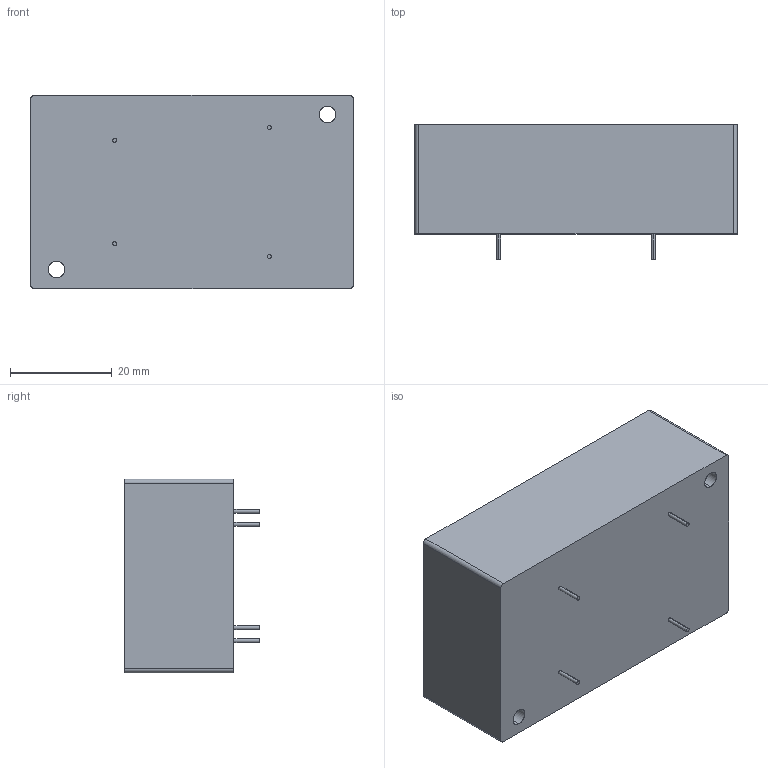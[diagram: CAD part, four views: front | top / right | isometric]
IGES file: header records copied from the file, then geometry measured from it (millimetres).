
Start section: SolidWorks IGES file using analytic representation for surfaces
Global section: file name: C:\Users\asmith\Desktop\~For Darol\Checked .igs Files\E-Series\E02-E60.IGS; native system: SolidWorks 2017; preprocessor: SolidWorks 2017; author: asmith; date: 171113.101804; units: inch
Bounding box: 63.5 x 26.67 x 38.1 mm (x, y, z)
Surface area: 9657.6 mm2 (no closed solid volume)
Topology: 0 solids, 0 shells, 26 faces, 376 edges, 376 vertices
Faces by surface type: revolution 16, bspline 10
